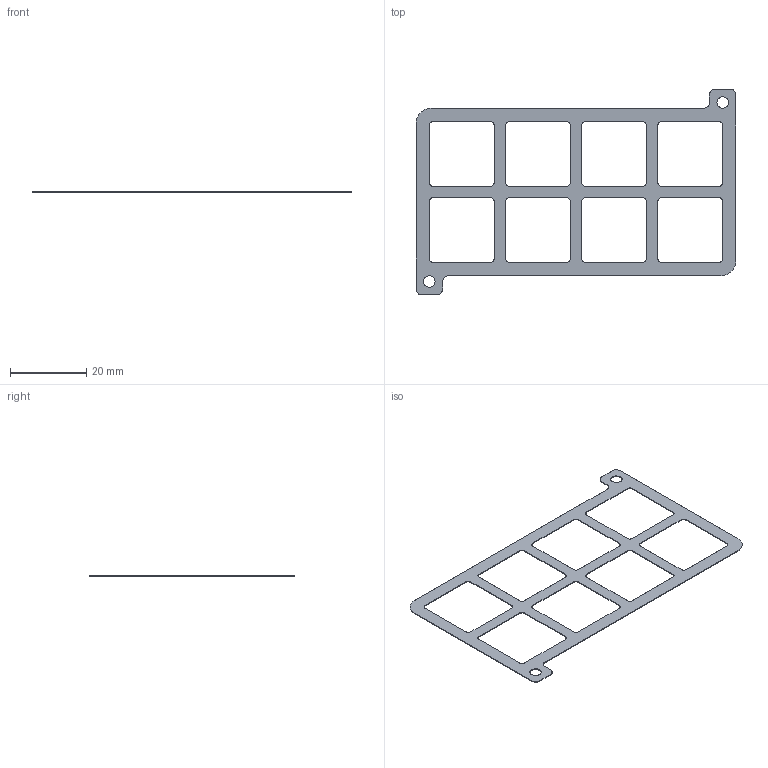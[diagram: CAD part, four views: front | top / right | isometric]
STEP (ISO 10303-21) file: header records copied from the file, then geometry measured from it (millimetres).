
FILE_DESCRIPTION(/* description */ ('STEP AP242 Edition 2','CAx-IF Rec.Pracs.---Representation and Presentation of Product Manufacturing Information (PMI)---4.0---2014-10-13','CAx-IF Rec.Pracs.---3D Tessellated Geometry---0.4---2014-09-14','2;1','CAx-IF Rec.Pracs.---User Defined Attributes---1.5---2016-08-15'),/* implementation_level */ '2;1');
FILE_NAME(/* name */ 'Assembly 1 - Part 1 (12)',/* time_stamp */ '2026-07-23T10:03:21Z',/* author */ (''),/* organization */ (''),/* preprocessor_version */ 'ST-DEVELOPER v20',/* originating_system */ 'ONSHAPE BY PTC INC, 1.218',/* authorisation */ ' ');
FILE_SCHEMA (('AP242_MANAGED_MODEL_BASED_3D_ENGINEERING_MIM_LF { 1 0 10303 442 3 1 4 }'));
Length unit declared in the file: metre
Products named in the file (1): Part 1
Bounding box: 84 x 54 x 0.2 mm (x, y, z)
Volume: 287.7 mm3; surface area: 3041.1 mm2
Topology: 1 solids, 1 shells, 84 faces, 246 edges, 164 vertices
Faces by surface type: plane 42, cylinder 42
Full cylindrical faces by diameter (mm): 3 x2
Entity records: 2866 total; most frequent: DIRECTION 498, CARTESIAN_POINT 493, ORIENTED_EDGE 488, EDGE_CURVE 244, AXIS2_PLACEMENT_3D 169, VERTEX_POINT 164, LINE 160, VECTOR 160
